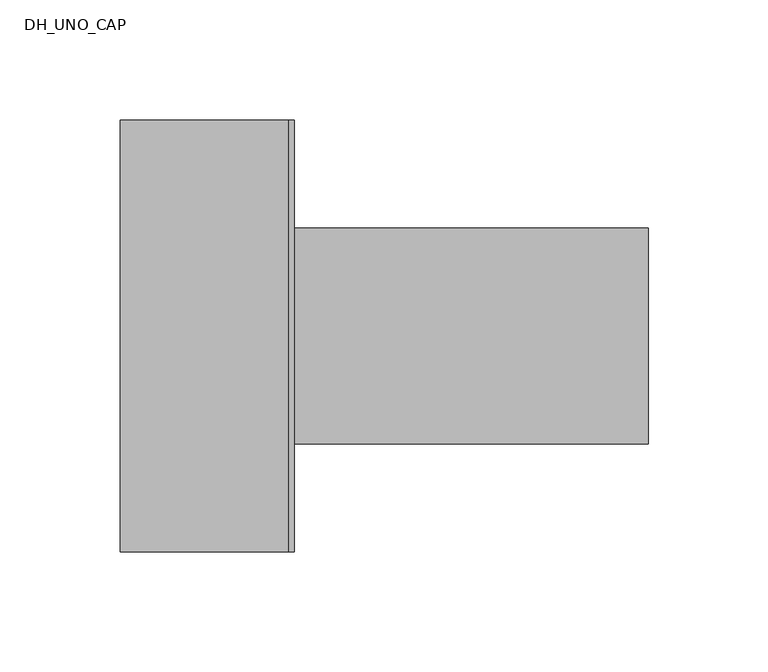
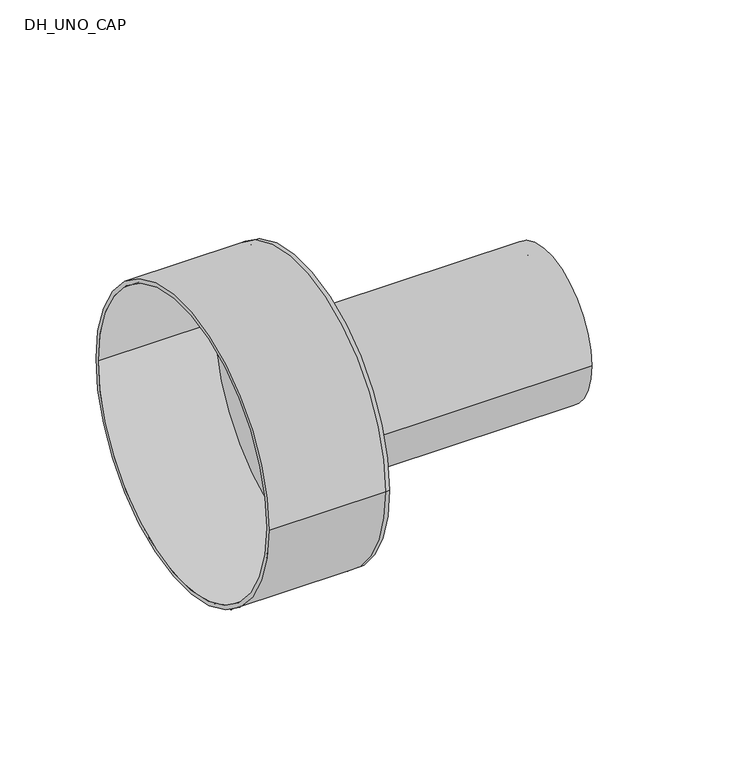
"""IFC4 building model written with IfcOpenShell, lengths in millimetres: pipe fitting geometry, DH_UNO_CAP : RAUVIPEX UNO 11 Heating - Solid Cap."""

from ifc_helpers import new_model, si_unit, point, frame, origin, origin_2d, place, context, project, spatial, polyline, circle_curve, trimmed, segment, composite_curve, outline, extrude, source, transform, mapped, element, save
from ifc_brep_helpers import plane_surface, cylinder_surface, revolved_surface, advanced_brep


def dh_uno_cap_f227d3a7(model_context):
    return source(origin(), model_context, "Body", "SolidModel", [
        extrude(outline(composite_curve([segment(trimmed(circle_curve(origin_2d(), 45.0), [point((-45.0, 0.0))], [point((45.0, 0.0))], False, "CARTESIAN"), True, "CONTINUOUS"), segment(trimmed(circle_curve(origin_2d(), 45.0), [point((45.0, 0.0))], [point((-45.0, 0.0))], False, "CARTESIAN"), True, "CONTINUOUS")], self_intersect=False), holes=[composite_curve([segment(trimmed(circle_curve(origin_2d(), 36.8), [point((-36.8, 0.0))], [point((36.8, 0.0))], True, "CARTESIAN"), True, "CONTINUOUS"), segment(trimmed(circle_curve(origin_2d(), 36.8), [point((36.8, 0.0))], [point((-36.8, 0.0))], True, "CARTESIAN"), True, "CONTINUOUS")], self_intersect=False)]), frame((0.0, 0.0, 0.0), z_axis=(1.0, 0.0, 0.0), x_axis=(0.0, 1.0, 0.0)), (0.0, 0.0, 1.0), 150.0),
        advanced_brep(
        [(-70.0, -90.0, 0.0), (-70.0, 90.0, 0.0), (-70.0, -87.5, 0.0), (-70.0, 87.5, 0.0), (0.0, -87.5, 0.0), (0.0, 87.5, 0.0), (0.0, -90.0, 0.0), (0.0, 90.0, 0.0), (0.0, 45.0, 0.0), (0.0, -45.0, 0.0), (2.5, -90.0, 0.0), (2.5, 90.0, 0.0), (2.5, -45.0, 0.0), (2.5, 45.0, 0.0)],
        [
            (0, 1, circle_curve(frame((-70.0, 0.0, 0.0), z_axis=(-1.0, 0.0, 0.0), x_axis=(0.0, 1.0, 0.0)), 90.0)),
            (1, 0, circle_curve(frame((-70.0, 0.0, 0.0), z_axis=(-1.0, 0.0, 0.0), x_axis=(0.0, 1.0, 0.0)), 90.0)),
            (2, 3, circle_curve(frame((-70.0, 0.0, 0.0), z_axis=(1.0, 0.0, 0.0), x_axis=(0.0, 1.0, 0.0)), 87.5)),
            (3, 2, circle_curve(frame((-70.0, 0.0, 0.0), z_axis=(1.0, 0.0, 0.0), x_axis=(0.0, 1.0, 0.0)), 87.5)),
            (2, 4),
            (4, 5, circle_curve(frame((0.0, 0.0, 0.0), z_axis=(1.0, 0.0, 0.0), x_axis=(0.0, 1.0, 0.0)), 87.5)),
            (5, 3),
            (5, 4, circle_curve(frame((0.0, 0.0, 0.0), z_axis=(1.0, 0.0, 0.0), x_axis=(0.0, 1.0, 0.0)), 87.5)),
            (0, 6),
            (6, 7, circle_curve(frame((0.0, 0.0, 0.0), z_axis=(-1.0, 0.0, 0.0), x_axis=(0.0, 1.0, 0.0)), 90.0)),
            (7, 1),
            (7, 6, circle_curve(frame((0.0, 0.0, 0.0), z_axis=(-1.0, 0.0, 0.0), x_axis=(0.0, 1.0, 0.0)), 90.0)),
            (8, 9, circle_curve(frame((0.0, 0.0, 0.0), z_axis=(1.0, 0.0, 0.0), x_axis=(0.0, 1.0, 0.0)), 45.0)),
            (9, 8, circle_curve(frame((0.0, 0.0, 0.0), z_axis=(1.0, 0.0, 0.0), x_axis=(0.0, 1.0, 0.0)), 45.0)),
            (10, 11, circle_curve(frame((2.5, 0.0, 0.0), z_axis=(1.0, 0.0, 0.0), x_axis=(0.0, 1.0, 0.0)), 90.0)),
            (11, 10, circle_curve(frame((2.5, 0.0, 0.0), z_axis=(1.0, 0.0, 0.0), x_axis=(0.0, 1.0, 0.0)), 90.0)),
            (12, 13, circle_curve(frame((2.5, 0.0, 0.0), z_axis=(-1.0, 0.0, 0.0), x_axis=(0.0, 1.0, 0.0)), 45.0)),
            (13, 12, circle_curve(frame((2.5, 0.0, 0.0), z_axis=(-1.0, 0.0, 0.0), x_axis=(0.0, 1.0, 0.0)), 45.0)),
            (11, 7),
            (6, 10),
            (8, 13),
            (12, 9),
        ],
        [
            plane_surface(frame((-70.0, 0.0, 0.0), z_axis=(-1.0, 0.0, 0.0), x_axis=(0.0, 0.0, 1.0))),
            revolved_surface(polyline([(0.0, 87.5, 0.0), (-70.0, 87.5, 0.0)]), (-70.0, 0.0, 0.0), (1.0, 0.0, 0.0)),
            cylinder_surface(frame((-70.0, 0.0, 0.0), z_axis=(-1.0, 0.0, 0.0), x_axis=(0.0, 1.0, 0.0)), 90.0),
            plane_surface(frame((0.0, 0.0, 0.0), z_axis=(-1.0, 0.0, 0.0), x_axis=(0.0, 0.0, 1.0))),
            plane_surface(frame((2.5, 0.0, 0.0), z_axis=(1.0, 0.0, 0.0), x_axis=(0.0, 0.0, 1.0))),
            cylinder_surface(frame((0.0, 0.0, 0.0), z_axis=(-1.0, 0.0, 0.0), x_axis=(0.0, 1.0, 0.0)), 90.0),
            revolved_surface(polyline([(0.0, 45.0, 0.0), (2.5, 45.0, 0.0)]), (0.0, 0.0, 0.0), (-1.0, 0.0, 0.0)),
        ],
        [
            (0, [[1, 2], [3, 4]]),
            (1, [[-3, 5, 6, 7]]),
            (1, [[-4, -7, 8, -5]]),
            (2, [[-1, 9, 10, 11]]),
            (2, [[-2, -11, 12, -9]]),
            (3, [[-6, -8], [13, 14]]),
            (4, [[15, 16], [17, 18]]),
            (5, [[-16, 19, -10, 20]]),
            (5, [[-15, -20, -12, -19]]),
            (6, [[21, -17, 22, -13]]),
            (6, [[-21, -14, -22, -18]]),
        ],
    ),
    ])


if __name__ == "__main__":
    model = new_model("IFC4")
    model_context = context("Model", 3, world=origin())
    ifc_project = project(units=[si_unit("LENGTHUNIT", "METRE", prefix="MILLI")], contexts=[model_context])
    site = spatial("IfcSite", under=ifc_project)
    building = spatial("IfcBuilding", under=site)
    placement = place(None, origin())
    dh_uno_cap_shape = dh_uno_cap_f227d3a7(model_context)
    element("IfcPipeFitting", 1, ObjectType="DH_UNO_CAP : RAUVIPEX UNO 11 Heating - Solid Cap", at=placement, inside=building, context=model_context, shape_type="MappedRepresentation", body=[
        mapped(dh_uno_cap_shape, transform((0.0, 0.0, 0.0), x_axis=(1.0, 0.0, 0.0), y_axis=(0.0, 1.0, 0.0), z_axis=(0.0, 0.0, 1.0))),
    ])
    save(model, "model.ifc")
